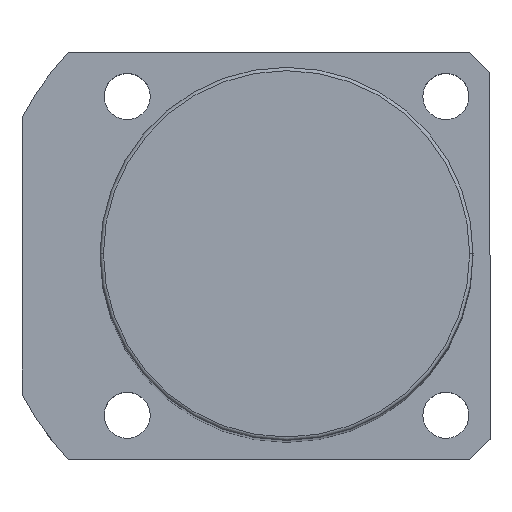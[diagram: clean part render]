
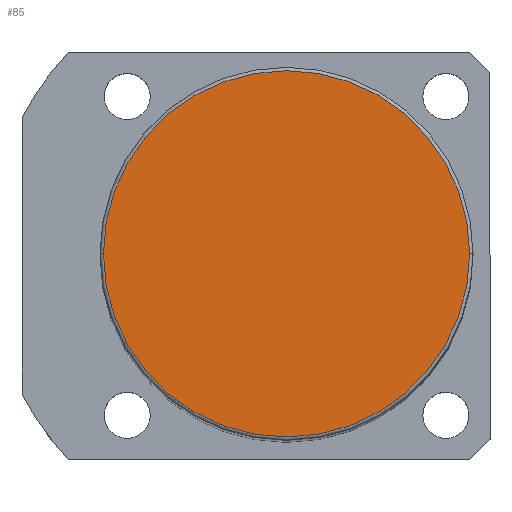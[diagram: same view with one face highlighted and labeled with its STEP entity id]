
A CAD part, top view. The second image highlights one B-rep face of the part: STEP entity #85.
In plain terms, the highlighted planar face has unit normal (0, 0, 1).
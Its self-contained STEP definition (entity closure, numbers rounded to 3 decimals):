
#85 = ADVANCED_FACE ( 'NONE', ( #1323 ), #1844, .T. ) ;
#125 = EDGE_LOOP ( 'NONE', ( #2108, #2060 ) ) ;
#175 = VERTEX_POINT ( 'NONE', #1870 ) ;
#206 = DIRECTION ( 'NONE',  ( 0., 0., 1. ) ) ;
#243 = DIRECTION ( 'NONE',  ( 1., 0., 0. ) ) ;
#650 = CARTESIAN_POINT ( 'NONE',  ( 0., 0., 181. ) ) ;
#689 = EDGE_CURVE ( 'NONE', #1069, #175, #2043, .T. ) ;
#874 = DIRECTION ( 'NONE',  ( 1., 0., 0. ) ) ;
#881 = CIRCLE ( 'NONE', #1748, 27. ) ;
#910 = CARTESIAN_POINT ( 'NONE',  ( 0., 0., 181. ) ) ;
#987 = AXIS2_PLACEMENT_3D ( 'NONE', #650, #993, #2020 ) ;
#993 = DIRECTION ( 'NONE',  ( 0., 0., 1. ) ) ;
#1069 = VERTEX_POINT ( 'NONE', #2066 ) ;
#1208 = CARTESIAN_POINT ( 'NONE',  ( 0., 0., 181. ) ) ;
#1282 = AXIS2_PLACEMENT_3D ( 'NONE', #910, #2094, #243 ) ;
#1323 = FACE_OUTER_BOUND ( 'NONE', #125, .T. ) ;
#1748 = AXIS2_PLACEMENT_3D ( 'NONE', #1208, #206, #874 ) ;
#1844 = PLANE ( 'NONE',  #987 ) ;
#1870 = CARTESIAN_POINT ( 'NONE',  ( 27., 0., 181. ) ) ;
#2020 = DIRECTION ( 'NONE',  ( 1., 0., 0. ) ) ;
#2043 = CIRCLE ( 'NONE', #1282, 27. ) ;
#2060 = ORIENTED_EDGE ( 'NONE', *, *, #689, .T. ) ;
#2066 = CARTESIAN_POINT ( 'NONE',  ( -27., 0., 181. ) ) ;
#2086 = EDGE_CURVE ( 'NONE', #175, #1069, #881, .T. ) ;
#2094 = DIRECTION ( 'NONE',  ( 0., 0., 1. ) ) ;
#2108 = ORIENTED_EDGE ( 'NONE', *, *, #2086, .T. ) ;
